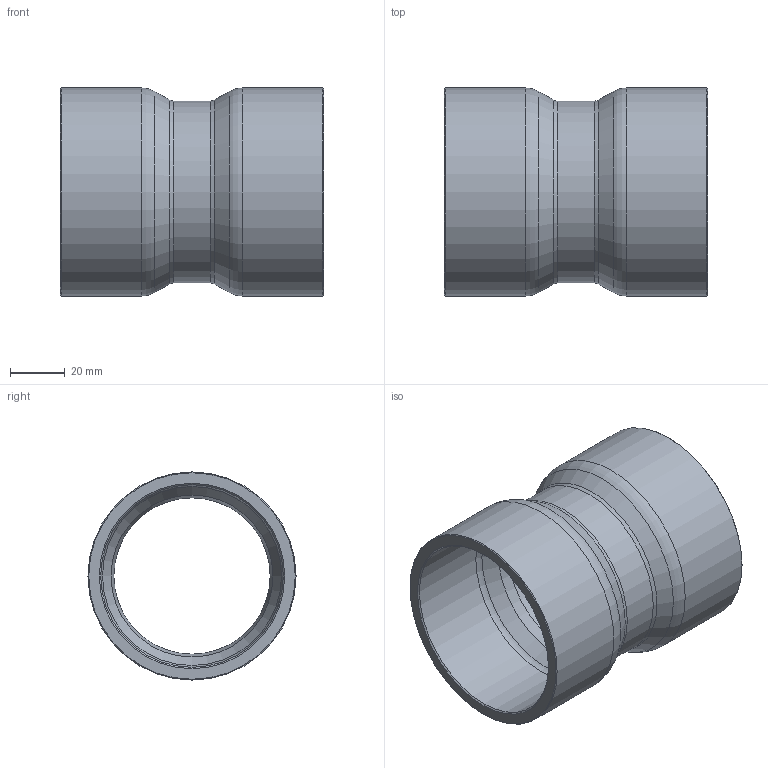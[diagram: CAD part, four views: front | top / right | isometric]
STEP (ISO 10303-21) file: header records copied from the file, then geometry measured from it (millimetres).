
FILE_DESCRIPTION((''),'2;1');
FILE_NAME('Z:\Technik\Management\Bouwmaten + markeringen\z-maattekeningen 3D\29000s\29000s_gem\29270258_3d.stp','2020-05-26T10:45:38',('vdvijverd'),(''),'Autodesk Inventor 2009','Autodesk Inventor 2009','');
FILE_SCHEMA(('AUTOMOTIVE_DESIGN { 1 0 10303 214 1 1 1 1 }'));
Length unit declared in the file: millimetre
Products named in the file (1): 29270258_3d
Bounding box: 96.5 x 76.33 x 76.33 mm (x, y, z)
Volume: 100310.8 mm3; surface area: 44797.3 mm2
Topology: 1 solids, 1 shells, 24 faces, 46 edges, 24 vertices
Faces by surface type: cone 8, cylinder 6, torus 4, bspline 4, plane 2
Full cylindrical faces by diameter (mm): 57.315 x1, 66.675 x1, 66.975 x2, 76.335 x2
Entity records: 674 total; most frequent: CARTESIAN_POINT 249, DIRECTION 90, ORIENTED_EDGE 48, EDGE_LOOP 48, AXIS2_PLACEMENT_3D 45, VERTEX_POINT 24, CIRCLE 24, EDGE_CURVE 24
